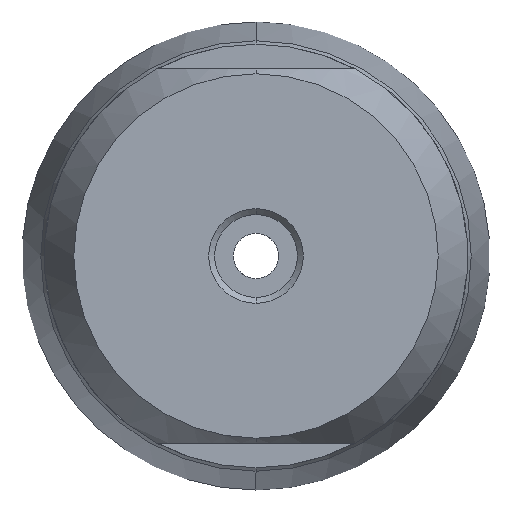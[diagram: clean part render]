
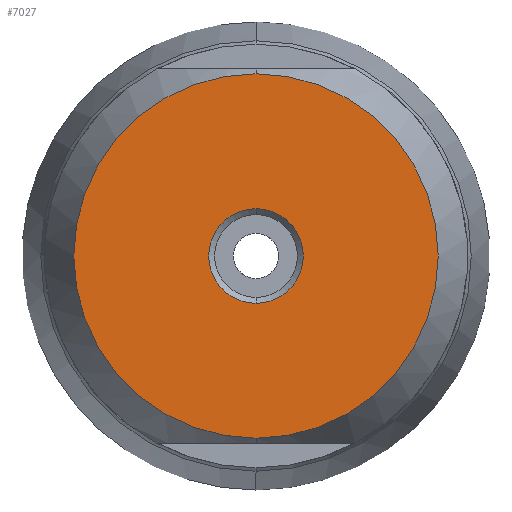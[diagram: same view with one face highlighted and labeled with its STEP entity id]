
A CAD part, left-side view. The second image highlights one B-rep face of the part: STEP entity #7027.
In plain terms, the highlighted planar face has unit normal (-1, 0, 0).
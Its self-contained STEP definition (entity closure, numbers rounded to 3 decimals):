
#54 = ORIENTED_EDGE ( 'NONE', *, *, #11346, .T. ) ;
#363 = AXIS2_PLACEMENT_3D ( 'NONE', #11868, #3916, #13218 ) ;
#826 = VERTEX_POINT ( 'NONE', #4698 ) ;
#1155 = CARTESIAN_POINT ( 'NONE',  ( -45., -50., -12. ) ) ;
#1158 = DIRECTION ( 'NONE',  ( 1., 0., 0. ) ) ;
#2032 = EDGE_CURVE ( 'NONE', #6485, #4859, #3171, .T. ) ;
#2125 = CIRCLE ( 'NONE', #7389, 9.25 ) ;
#2499 = DIRECTION ( 'NONE',  ( 0., 0., 1. ) ) ;
#3171 = CIRCLE ( 'NONE', #9992, 2.4 ) ;
#3916 = DIRECTION ( 'NONE',  ( -1., 0., 0. ) ) ;
#3976 = CIRCLE ( 'NONE', #9008, 2.4 ) ;
#4698 = CARTESIAN_POINT ( 'NONE',  ( -45., -50., -21.25 ) ) ;
#4796 = CIRCLE ( 'NONE', #363, 9.25 ) ;
#4859 = VERTEX_POINT ( 'NONE', #11553 ) ;
#5107 = VERTEX_POINT ( 'NONE', #16244 ) ;
#6243 = CARTESIAN_POINT ( 'NONE',  ( -45., -50., -10.75 ) ) ;
#6485 = VERTEX_POINT ( 'NONE', #16450 ) ;
#7027 = ADVANCED_FACE ( 'NONE', ( #7564, #11107 ), #16800, .T. ) ;
#7389 = AXIS2_PLACEMENT_3D ( 'NONE', #1155, #10451, #2499 ) ;
#7415 = CARTESIAN_POINT ( 'NONE',  ( -45., -50., -12. ) ) ;
#7564 = FACE_BOUND ( 'NONE', #14581, .T. ) ;
#7592 = DIRECTION ( 'NONE',  ( 0., 0., 1. ) ) ;
#7664 = ORIENTED_EDGE ( 'NONE', *, *, #2032, .T. ) ;
#8746 = DIRECTION ( 'NONE',  ( 0., 0., 1. ) ) ;
#9008 = AXIS2_PLACEMENT_3D ( 'NONE', #7415, #16682, #8746 ) ;
#9112 = CARTESIAN_POINT ( 'NONE',  ( -45., -50., -12. ) ) ;
#9990 = EDGE_LOOP ( 'NONE', ( #15266, #11852 ) ) ;
#9992 = AXIS2_PLACEMENT_3D ( 'NONE', #9112, #1158, #10454 ) ;
#10451 = DIRECTION ( 'NONE',  ( -1., 0., 0. ) ) ;
#10454 = DIRECTION ( 'NONE',  ( 0., 0., 1. ) ) ;
#11107 = FACE_OUTER_BOUND ( 'NONE', #9990, .T. ) ;
#11346 = EDGE_CURVE ( 'NONE', #4859, #6485, #3976, .T. ) ;
#11553 = CARTESIAN_POINT ( 'NONE',  ( -45., -50., -14.4 ) ) ;
#11699 = EDGE_CURVE ( 'NONE', #5107, #826, #4796, .T. ) ;
#11852 = ORIENTED_EDGE ( 'NONE', *, *, #11699, .T. ) ;
#11868 = CARTESIAN_POINT ( 'NONE',  ( -45., -50., -12. ) ) ;
#12532 = AXIS2_PLACEMENT_3D ( 'NONE', #6243, #15542, #7592 ) ;
#13218 = DIRECTION ( 'NONE',  ( 0., 0., 1. ) ) ;
#14581 = EDGE_LOOP ( 'NONE', ( #7664, #54 ) ) ;
#15266 = ORIENTED_EDGE ( 'NONE', *, *, #15688, .T. ) ;
#15542 = DIRECTION ( 'NONE',  ( -1., 0., 0. ) ) ;
#15688 = EDGE_CURVE ( 'NONE', #826, #5107, #2125, .T. ) ;
#16244 = CARTESIAN_POINT ( 'NONE',  ( -45., -50., -2.75 ) ) ;
#16450 = CARTESIAN_POINT ( 'NONE',  ( -45., -50., -9.6 ) ) ;
#16682 = DIRECTION ( 'NONE',  ( 1., 0., 0. ) ) ;
#16800 = PLANE ( 'NONE',  #12532 ) ;
